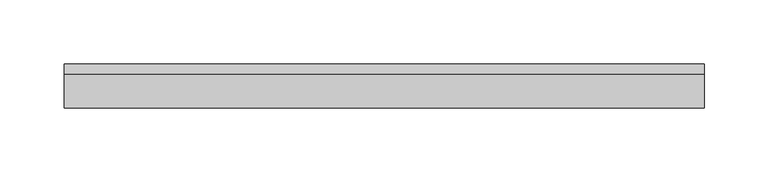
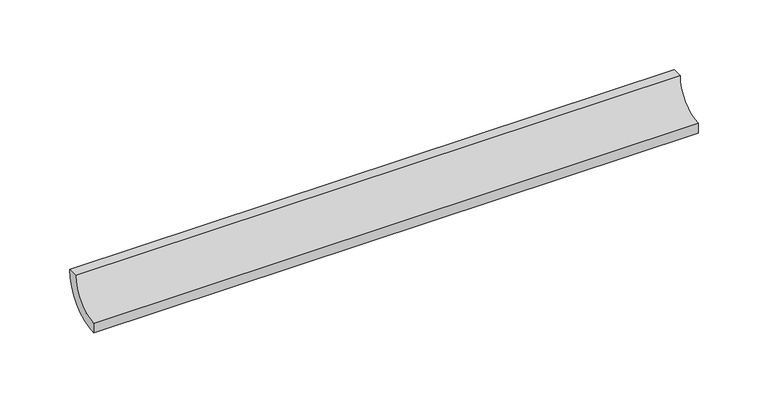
"""IFC4 building model written with IfcOpenShell, lengths in millimetres: proxy geometry, EXAGRES - Piscina Mediacaña1 : Publica_Azul_24.5x4cm."""

from ifc_helpers import new_model, si_unit, point, frame, frame_2d, origin, place, context, project, spatial, polyline, circle_curve, trimmed, segment, composite_curve, outline, extrude, source, transform, mapped, element, save


def generic_models_3d608d6a(model_context):
    return source(origin(), model_context, "Body", "SweptSolid", [
        extrude(outline(composite_curve([segment(trimmed(circle_curve(frame_2d((-26.0, 26.0)), 26.0), [point((-26.0, 0.0))], [point((0.0, 26.0))], True, "CARTESIAN"), True, "CONTINUOUS"), segment(polyline([(0.0, 26.0), (8.5, 26.0)]), True, "CONTINUOUS"), segment(trimmed(circle_curve(frame_2d((-26.0, 26.0)), 34.5), [point((8.5, 26.0))], [point((-26.0, -8.5))], False, "CARTESIAN"), True, "CONTINUOUS"), segment(polyline([(-26.0, -8.5), (-26.0, 0.0)]), True, "CONTINUOUS")], self_intersect=False)), frame((0.0, 0.0, 0.0), z_axis=(1.0, 0.0, 0.0), x_axis=(0.0, 1.0, 0.0)), (0.0, 0.0, 1.0), 500.0),
    ])


if __name__ == "__main__":
    model = new_model("IFC4")
    model_context = context("Model", 3, world=origin())
    ifc_project = project(units=[si_unit("LENGTHUNIT", "METRE", prefix="MILLI")], contexts=[model_context])
    site = spatial("IfcSite", under=ifc_project)
    building = spatial("IfcBuilding", under=site)
    placement = place(None, origin())
    generic_models_shape = generic_models_3d608d6a(model_context)
    element("IfcBuildingElementProxy", 1, Name="EXAGRES - Piscina Mediacaña1 : Publica_Azul_24.5x4cm", ObjectType="EXAGRES - Piscina Mediacaña1 : Publica_Azul_24.5x4cm", at=placement, inside=building, context=model_context, shape_type="MappedRepresentation", body=[
        mapped(generic_models_shape, transform((0.0, 0.0, 0.0), x_axis=(1.0, 0.0, 0.0), y_axis=(0.0, 1.0, 0.0), z_axis=(0.0, 0.0, 1.0))),
    ])
    save(model, "model.ifc")
